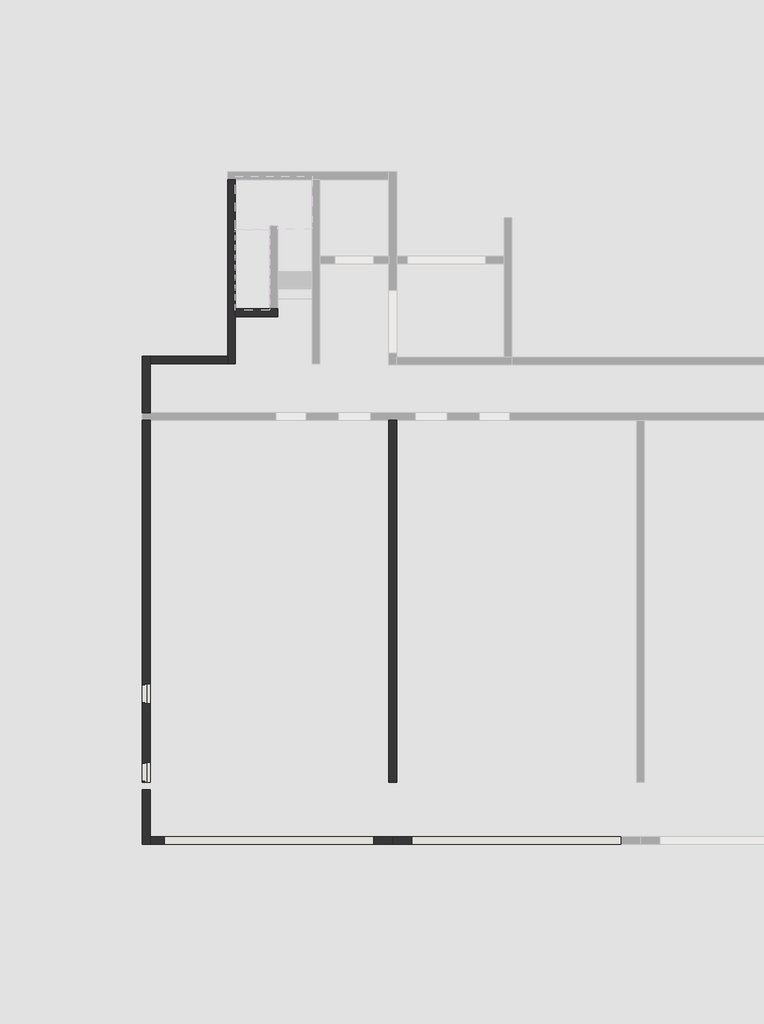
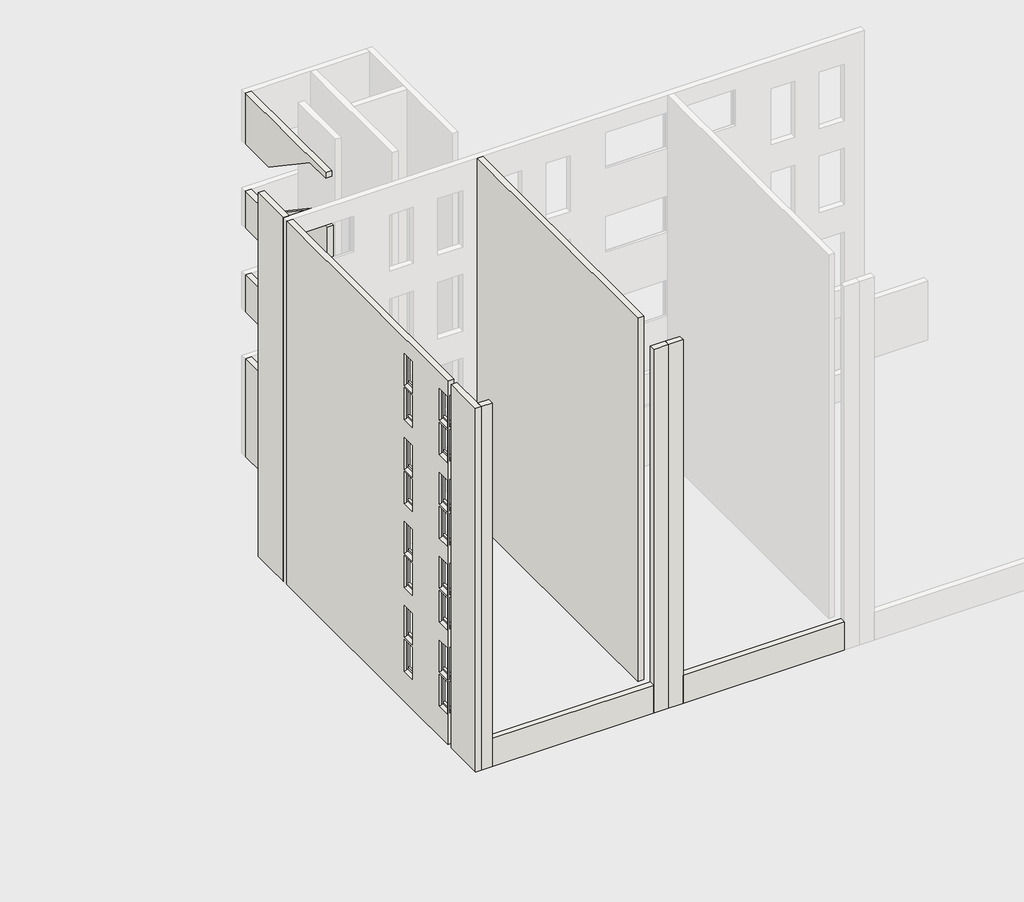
# One storey, part 1 of 4: 12 walls.
"""IFC4 building model written with IfcOpenShell, lengths in millimetres."""

import ifcopenshell
import ifcopenshell.guid

model = None  # the IFC model being written
_history = None  # IfcOwnerHistory: only IFC2X3 demands one
_inside = {}  # id of a spatial element -> (the spatial element, [elements in it])
_under = {}  # id of a project, library or spatial element -> (it, [spatial elements below it])
_declared = {}  # id of a project -> (the project, [libraries it declares])
_typed = {}  # id of a type object -> (the type object, [elements of that type])
_made_of = {}  # id of a material, layer set ... -> (it, [elements and type objects made of it])


def new_model(schema):
    """Start an empty IFC model of exactly this schema.

    Asked for "IFC4X3", IfcOpenShell would pick the latest addendum, in which some entities
    have other attributes; the version numbers below select the first issue.
    IFC2X3 requires an IfcOwnerHistory on every rooted entity: one is made here for all.
    """
    global model, _history
    if schema == "IFC4X3":
        model = ifcopenshell.file(schema_version=(4, 3, 0, 0))
    else:
        model = ifcopenshell.file(schema=schema)
    _inside.clear()
    _under.clear()
    _declared.clear()
    _typed.clear()
    _made_of.clear()
    _history = None
    if model.schema == "IFC2X3":
        org = make("IfcOrganization", Name="unknown")
        user = make(
            "IfcPersonAndOrganization",
            ThePerson=make("IfcPerson", FamilyName="unknown"),
            TheOrganization=org,
        )
        app = make(
            "IfcApplication",
            ApplicationDeveloper=org,
            Version="unknown",
            ApplicationFullName="unknown",
            ApplicationIdentifier="unknown",
        )
        _history = make(
            "IfcOwnerHistory",
            OwningUser=user,
            OwningApplication=app,
            ChangeAction="ADDED",
            CreationDate=0,
        )
    return model


def make(cls, **values):
    """One entity of the class cls with the attributes given. An attribute that is None is left unset."""
    return model.create_entity(
        cls, **{name: value for name, value in values.items() if value is not None}
    )


def rooted(cls, **values):
    """An entity with a GlobalId (a new one), such as an element, a storey or a relation."""
    return make(cls, GlobalId=ifcopenshell.guid.new(), OwnerHistory=_history, **values)


def si_unit(unit_type, name, prefix=None):
    """IfcSIUnit, for example si_unit("LENGTHUNIT", "METRE", prefix="MILLI")."""
    return make("IfcSIUnit", UnitType=unit_type, Prefix=prefix, Name=name)


def assignment(units):
    """IfcUnitAssignment: the units of a project."""
    return None if units is None else make("IfcUnitAssignment", Units=units)


def point(xyz):
    """IfcCartesianPoint."""
    return None if xyz is None else make("IfcCartesianPoint", Coordinates=xyz)


def direction(xyz):
    """IfcDirection."""
    return None if xyz is None else make("IfcDirection", DirectionRatios=xyz)


def frame(location, z_axis=None, x_axis=None):
    """IfcAxis2Placement3D, a coordinate frame: its origin and axes. An axis left out is left unset."""
    return make(
        "IfcAxis2Placement3D",
        Location=point(location),
        Axis=direction(z_axis),
        RefDirection=direction(x_axis),
    )


def origin():
    """The frame at (0, 0, 0) with its axes left unset."""
    return frame((0.0, 0.0, 0.0))


def place(relative_to, where):
    """IfcLocalPlacement: puts the frame where relative to a parent placement (None: the world)."""
    return make(
        "IfcLocalPlacement", PlacementRelTo=relative_to, RelativePlacement=where
    )


def context(
    kind, dimensions, precision=None, world=None, true_north=None, identifier=None
):
    """IfcGeometricRepresentationContext, for example the 3D "Model" context."""
    return make(
        "IfcGeometricRepresentationContext",
        ContextIdentifier=identifier,
        ContextType=kind,
        CoordinateSpaceDimension=dimensions,
        Precision=precision,
        WorldCoordinateSystem=world,
        TrueNorth=true_north,
    )


def project(units=None, contexts=None):
    """IfcProject with its units and contexts."""
    return rooted(
        "IfcProject",
        Name="project",
        RepresentationContexts=contexts,
        UnitsInContext=assignment(units),
    )


def spatial(cls, under=None, at=None, **own):
    """A site, building, storey or space (cls), placed at a placement, below another one or the project."""
    s = rooted(cls, ObjectPlacement=at, **own)
    if under is not None:
        _under.setdefault(under.id(), (under, []))[1].append(s)
    return s


def polyline(points):
    """IfcPolyline through the points."""
    return make("IfcPolyline", Points=[point(p) for p in points])


def outline(outer, holes=None, kind="AREA"):
    """IfcArbitraryClosedProfileDef: a profile drawn as a closed curve; with holes, ...WithVoids."""
    if holes is None:
        return make("IfcArbitraryClosedProfileDef", ProfileType=kind, OuterCurve=outer)
    return make(
        "IfcArbitraryProfileDefWithVoids",
        ProfileType=kind,
        OuterCurve=outer,
        InnerCurves=holes,
    )


def extrude(swept, where, along, depth):
    """IfcExtrudedAreaSolid: the profile swept, set in the frame where, extruded along a direction by depth."""
    return make(
        "IfcExtrudedAreaSolid",
        SweptArea=swept,
        Position=where,
        ExtrudedDirection=direction(along),
        Depth=depth,
    )


def faces_of(points, faces, orient=None, outer=None):
    """IfcFace entities. A face is a list of loops; a loop is a list of indices into points, from 0.

    orient and outer hold one flag for each loop. By default every Orientation is true, the
    first loop of a face is its IfcFaceOuterBound and the others are IfcFaceBound.
    """
    made = []
    for i, loops in enumerate(faces):
        bounds = []
        for j, loop in enumerate(loops):
            is_outer = j == 0 if outer is None else outer[i][j]
            bounds.append(
                make(
                    "IfcFaceOuterBound" if is_outer else "IfcFaceBound",
                    Bound=make("IfcPolyLoop", Polygon=[points[k] for k in loop]),
                    Orientation=True if orient is None else orient[i][j],
                )
            )
        made.append(make("IfcFace", Bounds=bounds))
    return made


def faceted_brep(points, faces, orient=None, outer=None, voids=None):
    """IfcFacetedBrep: a solid bounded by flat faces; with voids (closed shells), ...WithVoids."""
    shared = [point(p) for p in points]
    hull = make("IfcClosedShell", CfsFaces=faces_of(shared, faces, orient, outer))
    if voids is None:
        return make("IfcFacetedBrep", Outer=hull)
    return make(
        "IfcFacetedBrepWithVoids",
        Outer=hull,
        Voids=[
            make(cls, CfsFaces=faces_of(shared, fs, o, b)) for cls, fs, o, b in voids
        ],
    )


def shape(context_of_items, identifier, shape_type, items):
    """IfcShapeRepresentation: the items that make up one representation, for example the "Body"."""
    return make(
        "IfcShapeRepresentation",
        ContextOfItems=context_of_items,
        RepresentationIdentifier=identifier,
        RepresentationType=shape_type,
        Items=items,
    )


def made_of(thing, what):
    """Note that an element or type object is made of a material, layer set ...; save() writes the relation."""
    if what is not None:
        _made_of.setdefault(what.id(), (what, []))[1].append(thing)
    return thing


def element(
    cls,
    number,
    at=None,
    inside=None,
    cuts=None,
    type_object=None,
    material=None,
    context=None,
    identifier="Body",
    shape_type=None,
    held_by="IfcProductDefinitionShape",
    body=None,
    shapes=None,
    **own,
):
    """One element of the class cls, such as IfcWall. Its Tag is "e" and its number.

    at: its placement. inside: the storey or other place that contains it. cuts: it is an
    opening in that element (IfcRelVoidsElement). A single representation is given by context,
    identifier, shape_type and body (its items); several are given by shapes. held_by: the class
    of the entity that holds the representations. save() writes the other relations.
    """
    e = rooted(cls, Tag="e%d" % number, ObjectPlacement=at, **own)
    if body is not None:
        shapes = [shape(context, identifier, shape_type, body)]
    if shapes is not None:
        e.Representation = make(held_by, Representations=shapes)
    if inside is not None:
        _inside.setdefault(inside.id(), (inside, []))[1].append(e)
    if cuts is not None:
        rooted(
            "IfcRelVoidsElement", RelatingBuildingElement=cuts, RelatedOpeningElement=e
        )
    if type_object is not None:
        _typed.setdefault(type_object.id(), (type_object, []))[1].append(e)
    return made_of(e, material)


def aggregate(whole, parts):
    """IfcRelAggregates: a whole, such as a stair, and the parts it consists of."""
    return rooted("IfcRelAggregates", RelatingObject=whole, RelatedObjects=parts)


def save(model, path):
    """Write the relations noted so far, then the file.

    IfcRelAggregates (storeys below a building ...), IfcRelContainedInSpatialStructure (elements
    in a storey), IfcRelDefinesByType, IfcRelAssociatesMaterial and IfcRelDeclares: one each for
    every whole, place, type object, material and project.
    """
    for whole, parts in _under.values():
        aggregate(whole, parts)
    for where, things in _inside.values():
        rooted(
            "IfcRelContainedInSpatialStructure",
            RelatedElements=things,
            RelatingStructure=where,
        )
    for kind, things in _typed.values():
        rooted("IfcRelDefinesByType", RelatedObjects=things, RelatingType=kind)
    for what, things in _made_of.values():
        rooted("IfcRelAssociatesMaterial", RelatedObjects=things, RelatingMaterial=what)
    for by, libraries in _declared.values():
        rooted("IfcRelDeclares", RelatingContext=by, RelatedDefinitions=libraries)
    model.write(path)


model = new_model("IFC4")

# Units and contexts
model_context = context("Model", 3, world=origin())
ifc_project = project(units=[si_unit("LENGTHUNIT", "METRE", prefix="MILLI")], contexts=[model_context])

# Site, building, storey
site = spatial("IfcSite", under=ifc_project)
building = spatial("IfcBuilding", under=site)
storey = spatial("IfcBuildingStorey", under=building, Name="設計GL", Elevation=0.0)

# Walls
placement = place(None, origin())
element("IfcWall", 1, ObjectType="(R)RC200", at=placement, inside=storey, context=model_context, shape_type="Brep", body=[
    faceted_brep([(-11052.4687246, -16870.1171638, -1200.0), (-11052.4687246, -16670.1171638, -1200.0), (-11052.4687246, -15443.8671638, -1200.0), (-11052.4687246, -15443.8671638, 13000.0), (-11052.4687246, -16670.1171638, 13000.0), (-11052.4687246, -16870.1171638, 13000.0), (-11252.4687246, -16870.1171638, -1200.0), (-11252.4687246, -16870.1171638, 13000.0), (-11252.4687246, -15443.8671638, 13000.0), (-11252.4687246, -15443.8671638, -1200.0)], [[[0, 1, 2, 3, 4, 5]], [[6, 7, 8, 9]], [[2, 1, 0, 6, 9]], [[5, 4, 3, 8, 7]], [[0, 5, 7, 6]], [[3, 2, 9, 8]]]),
])
element("IfcWall", 2, ObjectType="内壁(R)RC200", at=placement, inside=storey, context=model_context, shape_type="Brep", body=[
    faceted_brep([(-4828.7187246, -5826.3671638, -1200.0), (-4828.7187246, -15243.8671638, -1200.0), (-4828.7187246, -15243.8671638, 13000.0), (-4828.7187246, -9920.1171638, 13000.0), (-4828.7187246, -9720.1171638, 13000.0), (-4828.7187246, -5826.3671638, 13000.0), (-4628.7187246, -5826.3671638, -1200.0), (-4628.7187246, -5826.3671638, 13000.0), (-4628.7187246, -9720.1171638, 13000.0), (-4628.7187246, -9920.1171638, 13000.0), (-4628.7187246, -15243.8671638, 13000.0), (-4628.7187246, -15243.8671638, -1200.0)], [[[0, 1, 2, 3, 4, 5]], [[6, 7, 8, 9, 10, 11]], [[1, 0, 6, 11]], [[5, 4, 3, 2, 10, 9, 8, 7]], [[0, 5, 7, 6]], [[2, 1, 11, 10]]]),
])
element("IfcWall", 3, ObjectType="(R)RC200", at=placement, inside=storey, context=model_context, shape_type="SweptSolid", body=[
    extrude(outline(polyline([(-9028.7187246, -4350.1171638), (-11052.4687246, -4350.1171638), (-11052.4687246, -4150.1171638), (-9028.7187246, -4150.1171638), (-9028.7187246, -4350.1171638)])), frame((0.0, 0.0, -1200.0), z_axis=(0.0, 0.0, 1.0), x_axis=(1.0, 0.0, 0.0)), (0.0, 0.0, 1.0), 3300.0),
])
element("IfcWall", 4, ObjectType="(R)RC200", at=placement, inside=storey, context=model_context, shape_type="SweptSolid", body=[
    extrude(outline(polyline([(-10678.7187246, -16870.1171638), (-11052.4687246, -16870.1171638), (-11052.4687246, -16670.1171638), (-10678.7187246, -16670.1171638), (-10678.7187246, -16870.1171638)])), frame((0.0, 0.0, -1200.0), z_axis=(0.0, 0.0, 1.0), x_axis=(1.0, 0.0, 0.0)), (0.0, 0.0, 1.0), 14200.0),
])
element("IfcWall", 5, ObjectType="(R)RC200", at=placement, inside=storey, context=model_context, shape_type="SweptSolid", body=[
    extrude(outline(polyline([(-5228.7187246, -16870.1171638), (-10678.7187246, -16870.1171638), (-10678.7187246, -16670.1171638), (-5228.7187246, -16670.1171638), (-5228.7187246, -16870.1171638)])), frame((0.0, 0.0, -1200.0), z_axis=(0.0, 0.0, 1.0), x_axis=(1.0, 0.0, 0.0)), (0.0, 0.0, 1.0), 2200.0),
])
element("IfcWall", 6, ObjectType="(R)RC200", at=placement, inside=storey, context=model_context, shape_type="SweptSolid", body=[
    extrude(outline(polyline([(-4728.7187246, -16870.1171638), (-5228.7187246, -16870.1171638), (-5228.7187246, -16670.1171638), (-4728.7187246, -16670.1171638), (-4728.7187246, -16870.1171638)])), frame((0.0, 0.0, -1200.0), z_axis=(0.0, 0.0, 1.0), x_axis=(1.0, 0.0, 0.0)), (0.0, 0.0, 1.0), 14200.0),
])
element("IfcWall", 7, ObjectType="(R)RC200", at=placement, inside=storey, context=model_context, shape_type="SweptSolid", body=[
    extrude(outline(polyline([(-4228.7187246, -16870.1171638), (-4728.7187246, -16870.1171638), (-4728.7187246, -16670.1171638), (-4228.7187246, -16670.1171638), (-4228.7187246, -16870.1171638)])), frame((0.0, 0.0, -1200.0), z_axis=(0.0, 0.0, 1.0), x_axis=(1.0, 0.0, 0.0)), (0.0, 0.0, 1.0), 14200.0),
])
element("IfcWall", 8, ObjectType="(R)RC200", at=placement, inside=storey, context=model_context, shape_type="SweptSolid", body=[
    extrude(outline(polyline([(1221.2812754, -16870.1171638), (-4228.7187246, -16870.1171638), (-4228.7187246, -16670.1171638), (1221.2812754, -16670.1171638), (1221.2812754, -16870.1171638)])), frame((0.0, 0.0, -1200.0), z_axis=(0.0, 0.0, 1.0), x_axis=(1.0, 0.0, 0.0)), (0.0, 0.0, 1.0), 2200.0),
])
element("IfcWall", 9, ObjectType="(R)RC200", at=placement, inside=storey, context=model_context, shape_type="Brep", body=[
    faceted_brep([(-9028.7187246, -4350.1171638, -1200.0), (-9028.7187246, -4350.1171638, 2100.0), (-9028.7187246, -4350.1171638, 3800.0), (-9028.7187246, -4350.1171638, 5100.0), (-9028.7187246, -4350.1171638, 5118.2352941), (-9028.7187246, -3315.3470092, 5118.2352941), (-9028.7187246, -916.2145243, 3500.0), (-9028.7187246, 449.8828362, 3500.0), (-9028.7187246, 449.8828362, -1200.0), (-9028.7187246, -4150.1171638, -1200.0), (-8828.7187246, -4350.1171638, 5118.2352941), (-8828.7187246, -4350.1171638, -1200.0), (-8828.7187246, -3120.1171638, -1200.0), (-8828.7187246, -2920.1171638, -1200.0), (-8828.7187246, 449.8828362, -1200.0), (-8828.7187246, 449.8828362, 3500.0), (-8828.7187246, -916.2145243, 3500.0), (-8828.7187246, -3315.3470092, 5118.2352941)], [[[0, 1, 2, 3, 4, 5, 6, 7, 8, 9]], [[10, 11, 12, 13, 14, 15, 16, 17]], [[0, 11, 10, 4, 3, 2, 1]], [[0, 9, 8, 14, 13, 12, 11]], [[5, 4, 10, 17]], [[6, 5, 17, 16]], [[7, 6, 16, 15]], [[8, 7, 15, 14]]]),
    faceted_brep([(-9028.7187246, 449.8828362, 11181.7647059), (-9028.7187246, -916.2145243, 11181.7647059), (-9028.7187246, -3315.3470092, 12800.0), (-9028.7187246, -4250.1171638, 12800.0), (-9028.7187246, -4250.1171638, 13000.0), (-9028.7187246, 449.8828362, 13000.0), (-8828.7187246, 449.8828362, 11181.7647059), (-8828.7187246, 449.8828362, 13000.0), (-8828.7187246, -4250.1171638, 13000.0), (-8828.7187246, -4250.1171638, 12800.0), (-8828.7187246, -3315.3470092, 12800.0), (-8828.7187246, -916.2145243, 11181.7647059)], [[[0, 1, 2, 3, 4, 5]], [[6, 7, 8, 9, 10, 11]], [[0, 5, 7, 6]], [[5, 4, 8, 7]], [[1, 0, 6, 11]], [[2, 1, 11, 10]], [[3, 2, 10, 9]], [[4, 3, 9, 8]]]),
    faceted_brep([(-9028.7187246, -916.2145243, 5181.7647059), (-9028.7187246, -3315.3470092, 6800.0), (-9028.7187246, -4150.1171638, 6800.0), (-9028.7187246, -4350.1171638, 6800.0), (-9028.7187246, -4350.1171638, 8100.0), (-9028.7187246, -4350.1171638, 8118.2352941), (-9028.7187246, -3315.3470092, 8118.2352941), (-9028.7187246, -916.2145243, 6500.0), (-9028.7187246, 449.8828362, 6500.0), (-9028.7187246, 449.8828362, 5181.7647059), (-8828.7187246, -916.2145243, 5181.7647059), (-8828.7187246, 449.8828362, 5181.7647059), (-8828.7187246, 449.8828362, 6500.0), (-8828.7187246, -916.2145243, 6500.0), (-8828.7187246, -3315.3470092, 8118.2352941), (-8828.7187246, -4350.1171638, 8118.2352941), (-8828.7187246, -4350.1171638, 6800.0), (-8828.7187246, -3315.3470092, 6800.0)], [[[0, 1, 2, 3, 4, 5, 6, 7, 8, 9]], [[10, 11, 12, 13, 14, 15, 16, 17]], [[1, 0, 10, 17]], [[3, 2, 1, 17, 16]], [[6, 5, 15, 14]], [[7, 6, 14, 13]], [[8, 7, 13, 12]], [[0, 9, 11, 10]], [[5, 4, 3, 16, 15]], [[9, 8, 12, 11]]]),
    faceted_brep([(-9028.7187246, -916.2145243, 8181.7647059), (-9028.7187246, -3315.3470092, 9800.0), (-9028.7187246, -4150.1171638, 9800.0), (-9028.7187246, -4350.1171638, 9800.0), (-9028.7187246, -4350.1171638, 11100.0), (-9028.7187246, -4350.1171638, 11118.2352941), (-9028.7187246, -3315.3470092, 11118.2352941), (-9028.7187246, -916.2145243, 9500.0), (-9028.7187246, 449.8828362, 9500.0), (-9028.7187246, 449.8828362, 8181.7647059), (-8828.7187246, -916.2145243, 8181.7647059), (-8828.7187246, 449.8828362, 8181.7647059), (-8828.7187246, 449.8828362, 9500.0), (-8828.7187246, -916.2145243, 9500.0), (-8828.7187246, -3315.3470092, 11118.2352941), (-8828.7187246, -4350.1171638, 11118.2352941), (-8828.7187246, -4350.1171638, 9800.0), (-8828.7187246, -3315.3470092, 9800.0)], [[[0, 1, 2, 3, 4, 5, 6, 7, 8, 9]], [[10, 11, 12, 13, 14, 15, 16, 17]], [[1, 0, 10, 17]], [[3, 2, 1, 17, 16]], [[6, 5, 15, 14]], [[7, 6, 14, 13]], [[8, 7, 13, 12]], [[0, 9, 11, 10]], [[5, 4, 3, 16, 15]], [[9, 8, 12, 11]]]),
])
element("IfcWall", 10, ObjectType="(R)RC200", at=placement, inside=storey, context=model_context, shape_type="Brep", body=[
    faceted_brep([(-8828.7187246, -3120.1171638, -1200.0), (-7728.7187246, -3120.1171638, -1200.0), (-7728.7187246, -3120.1171638, 4000.0), (-8828.7187246, -3120.1171638, 4000.0), (-8828.7187246, -2920.1171638, -1200.0), (-8828.7187246, -2920.1171638, 4000.0), (-7728.7187246, -2920.1171638, 4000.0), (-7728.7187246, -2920.1171638, -1200.0), (-7928.7187246, -2920.1171638, -1200.0)], [[[0, 1, 2, 3]], [[4, 5, 6, 7, 8]], [[1, 0, 4, 8, 7]], [[3, 2, 6, 5]], [[0, 3, 5, 4]], [[2, 1, 7, 6]]]),
])
element("IfcWall", 11, ObjectType="(R)RC200", at=placement, inside=storey, context=model_context, shape_type="Brep", body=[
    faceted_brep([(-11052.4687246, -5626.3671638, -1200.0), (-11052.4687246, -4350.1171638, -1200.0), (-11052.4687246, -4150.1171638, -1200.0), (-11052.4687246, -4150.1171638, 2100.0), (-11052.4687246, -4150.1171638, 3800.0), (-11052.4687246, -4150.1171638, 5100.0), (-11052.4687246, -4150.1171638, 6800.0), (-11052.4687246, -4150.1171638, 8100.0), (-11052.4687246, -4150.1171638, 9800.0), (-11052.4687246, -4150.1171638, 11100.0), (-11052.4687246, -4150.1171638, 13000.0), (-11052.4687246, -5626.3671638, 13000.0), (-11252.4687246, -5626.3671638, -1200.0), (-11252.4687246, -5626.3671638, 13000.0), (-11252.4687246, -4150.1171638, 13000.0), (-11252.4687246, -4150.1171638, -1200.0)], [[[0, 1, 2, 3, 4, 5, 6, 7, 8, 9, 10, 11]], [[12, 13, 14, 15]], [[2, 1, 0, 12, 15]], [[11, 10, 14, 13]], [[2, 15, 14, 10, 9, 8, 7, 6, 5, 4, 3]], [[0, 11, 13, 12]]]),
])
element("IfcWall", 12, ObjectType="外壁(R)RC200", at=placement, inside=storey, context=model_context, shape_type="Brep", body=[
    faceted_brep([(-11052.4687246, -15243.8671638, -1200.0), (-11052.4687246, -5826.3671638, -1200.0), (-11052.4687246, -5826.3671638, 13000.0), (-11052.4687246, -9720.1171638, 13000.0), (-11052.4687246, -9920.1171638, 13000.0), (-11052.4687246, -15243.8671638, 13000.0), (-11052.4687246, -15243.8671638, 12465.0), (-11052.4687246, -14730.1171638, 12465.0), (-11052.4687246, -14730.1171638, 11395.0), (-11052.4687246, -15243.8671638, 11395.0), (-11052.4687246, -15243.8671638, 11245.0), (-11052.4687246, -14730.1171638, 11245.0), (-11052.4687246, -14730.1171638, 10175.0), (-11052.4687246, -15243.8671638, 10175.0), (-11052.4687246, -15243.8671638, 9465.0), (-11052.4687246, -14730.1171638, 9465.0), (-11052.4687246, -14730.1171638, 8395.0), (-11052.4687246, -15243.8671638, 8395.0), (-11052.4687246, -15243.8671638, 8245.0), (-11052.4687246, -14730.1171638, 8245.0), (-11052.4687246, -14730.1171638, 7175.0), (-11052.4687246, -15243.8671638, 7175.0), (-11052.4687246, -15243.8671638, 6465.0), (-11052.4687246, -14730.1171638, 6465.0), (-11052.4687246, -14730.1171638, 5395.0), (-11052.4687246, -15243.8671638, 5395.0), (-11052.4687246, -15243.8671638, 5245.0), (-11052.4687246, -14730.1171638, 5245.0), (-11052.4687246, -14730.1171638, 4175.0), (-11052.4687246, -15243.8671638, 4175.0), (-11052.4687246, -15243.8671638, 3465.0), (-11052.4687246, -14730.1171638, 3465.0), (-11052.4687246, -14730.1171638, 2395.0), (-11052.4687246, -15243.8671638, 2395.0), (-11052.4687246, -15243.8671638, 2245.0), (-11052.4687246, -14730.1171638, 2245.0), (-11052.4687246, -14730.1171638, 1175.0), (-11052.4687246, -15243.8671638, 1175.0), (-11052.4687246, -12680.1171638, 2245.0), (-11052.4687246, -12680.1171638, 1175.0), (-11052.4687246, -13210.1171638, 1175.0), (-11052.4687246, -13210.1171638, 2245.0), (-11052.4687246, -12680.1171638, 3465.0), (-11052.4687246, -12680.1171638, 2395.0), (-11052.4687246, -13210.1171638, 2395.0), (-11052.4687246, -13210.1171638, 3465.0), (-11052.4687246, -12680.1171638, 5245.0), (-11052.4687246, -12680.1171638, 4175.0), (-11052.4687246, -13210.1171638, 4175.0), (-11052.4687246, -13210.1171638, 5245.0), (-11052.4687246, -12680.1171638, 6465.0), (-11052.4687246, -12680.1171638, 5395.0), (-11052.4687246, -13210.1171638, 5395.0), (-11052.4687246, -13210.1171638, 6465.0), (-11052.4687246, -12680.1171638, 8245.0), (-11052.4687246, -12680.1171638, 7175.0), (-11052.4687246, -13210.1171638, 7175.0), (-11052.4687246, -13210.1171638, 8245.0), (-11052.4687246, -12680.1171638, 9465.0), (-11052.4687246, -12680.1171638, 8395.0), (-11052.4687246, -13210.1171638, 8395.0), (-11052.4687246, -13210.1171638, 9465.0), (-11052.4687246, -12680.1171638, 11245.0), (-11052.4687246, -12680.1171638, 10175.0), (-11052.4687246, -13210.1171638, 10175.0), (-11052.4687246, -13210.1171638, 11245.0), (-11052.4687246, -12680.1171638, 12465.0), (-11052.4687246, -12680.1171638, 11395.0), (-11052.4687246, -13210.1171638, 11395.0), (-11052.4687246, -13210.1171638, 12465.0), (-11252.4687246, -5826.3671638, -1200.0), (-11252.4687246, -15243.8671638, -1200.0), (-11252.4687246, -15243.8671638, 13000.0), (-11252.4687246, -5826.3671638, 13000.0), (-11252.4687246, -13180.1171638, 1085.0), (-11252.4687246, -12710.1171638, 1085.0), (-11252.4687246, -12710.1171638, 2220.0), (-11252.4687246, -13180.1171638, 2220.0), (-11252.4687246, -13180.1171638, 2305.0), (-11252.4687246, -12710.1171638, 2305.0), (-11252.4687246, -12710.1171638, 3440.0), (-11252.4687246, -13180.1171638, 3440.0), (-11252.4687246, -13180.1171638, 4085.0), (-11252.4687246, -12710.1171638, 4085.0), (-11252.4687246, -12710.1171638, 5220.0), (-11252.4687246, -13180.1171638, 5220.0), (-11252.4687246, -13180.1171638, 5305.0), (-11252.4687246, -12710.1171638, 5305.0), (-11252.4687246, -12710.1171638, 6440.0), (-11252.4687246, -13180.1171638, 6440.0), (-11252.4687246, -13180.1171638, 7085.0), (-11252.4687246, -12710.1171638, 7085.0), (-11252.4687246, -12710.1171638, 8220.0), (-11252.4687246, -13180.1171638, 8220.0), (-11252.4687246, -13180.1171638, 8305.0), (-11252.4687246, -12710.1171638, 8305.0), (-11252.4687246, -12710.1171638, 9440.0), (-11252.4687246, -13180.1171638, 9440.0), (-11252.4687246, -13180.1171638, 10085.0), (-11252.4687246, -12710.1171638, 10085.0), (-11252.4687246, -12710.1171638, 11220.0), (-11252.4687246, -13180.1171638, 11220.0), (-11252.4687246, -13180.1171638, 11305.0), (-11252.4687246, -12710.1171638, 11305.0), (-11252.4687246, -12710.1171638, 12440.0), (-11252.4687246, -13180.1171638, 12440.0), (-11252.4687246, -15230.1171638, 11305.0), (-11252.4687246, -14760.1171638, 11305.0), (-11252.4687246, -14760.1171638, 12440.0), (-11252.4687246, -15230.1171638, 12440.0), (-11252.4687246, -15230.1171638, 10085.0), (-11252.4687246, -14760.1171638, 10085.0), (-11252.4687246, -14760.1171638, 11220.0), (-11252.4687246, -15230.1171638, 11220.0), (-11252.4687246, -15230.1171638, 8305.0), (-11252.4687246, -14760.1171638, 8305.0), (-11252.4687246, -14760.1171638, 9440.0), (-11252.4687246, -15230.1171638, 9440.0), (-11252.4687246, -15230.1171638, 7085.0), (-11252.4687246, -14760.1171638, 7085.0), (-11252.4687246, -14760.1171638, 8220.0), (-11252.4687246, -15230.1171638, 8220.0), (-11252.4687246, -15230.1171638, 5305.0), (-11252.4687246, -14760.1171638, 5305.0), (-11252.4687246, -14760.1171638, 6440.0), (-11252.4687246, -15230.1171638, 6440.0), (-11252.4687246, -15230.1171638, 4085.0), (-11252.4687246, -14760.1171638, 4085.0), (-11252.4687246, -14760.1171638, 5220.0), (-11252.4687246, -15230.1171638, 5220.0), (-11252.4687246, -15230.1171638, 2305.0), (-11252.4687246, -14760.1171638, 2305.0), (-11252.4687246, -14760.1171638, 3440.0), (-11252.4687246, -15230.1171638, 3440.0), (-11252.4687246, -15230.1171638, 1085.0), (-11252.4687246, -14760.1171638, 1085.0), (-11252.4687246, -14760.1171638, 2220.0), (-11252.4687246, -15230.1171638, 2220.0), (-11122.4687246, -12680.1171638, 2245.0), (-11122.4687246, -12680.1171638, 1175.0), (-11122.4687246, -13210.1171638, 1175.0), (-11122.4687246, -13210.1171638, 2245.0), (-11122.4687246, -12690.1171638, 1175.0), (-11122.4687246, -13200.1171638, 1175.0), (-11122.4687246, -13200.1171638, 2240.0), (-11122.4687246, -12690.1171638, 2240.0), (-11192.4687246, -12690.1171638, 2240.0), (-11192.4687246, -12690.1171638, 1094.2307692), (-11122.4687246, -12690.1171638, 1105.0), (-11122.4687246, -13200.1171638, 1105.0), (-11192.4687246, -13200.1171638, 1094.2307692), (-11192.4687246, -13200.1171638, 2240.0), (-11192.4687246, -12710.1171638, 1094.2307692), (-11192.4687246, -13180.1171638, 1094.2307692), (-11192.4687246, -13180.1171638, 2220.0), (-11192.4687246, -12710.1171638, 2220.0), (-11122.4687246, -12680.1171638, 3465.0), (-11122.4687246, -12680.1171638, 2395.0), (-11122.4687246, -13210.1171638, 2395.0), (-11122.4687246, -13210.1171638, 3465.0), (-11122.4687246, -12690.1171638, 2395.0), (-11122.4687246, -13200.1171638, 2395.0), (-11122.4687246, -13200.1171638, 3460.0), (-11122.4687246, -12690.1171638, 3460.0), (-11192.4687246, -12690.1171638, 3460.0), (-11192.4687246, -12690.1171638, 2314.2307692), (-11122.4687246, -12690.1171638, 2325.0), (-11122.4687246, -13200.1171638, 2325.0), (-11192.4687246, -13200.1171638, 2314.2307692), (-11192.4687246, -13200.1171638, 3460.0), (-11192.4687246, -12710.1171638, 2314.2307692), (-11192.4687246, -13180.1171638, 2314.2307692), (-11192.4687246, -13180.1171638, 3440.0), (-11192.4687246, -12710.1171638, 3440.0), (-11122.4687246, -12680.1171638, 5245.0), (-11122.4687246, -12680.1171638, 4175.0), (-11122.4687246, -13210.1171638, 4175.0), (-11122.4687246, -13210.1171638, 5245.0), (-11122.4687246, -12690.1171638, 4175.0), (-11122.4687246, -13200.1171638, 4175.0), (-11122.4687246, -13200.1171638, 5240.0), (-11122.4687246, -12690.1171638, 5240.0), (-11192.4687246, -12690.1171638, 5240.0), (-11192.4687246, -12690.1171638, 4094.2307692), (-11122.4687246, -12690.1171638, 4105.0), (-11122.4687246, -13200.1171638, 4105.0), (-11192.4687246, -13200.1171638, 4094.2307692), (-11192.4687246, -13200.1171638, 5240.0), (-11192.4687246, -12710.1171638, 4094.2307692), (-11192.4687246, -13180.1171638, 4094.2307692), (-11192.4687246, -13180.1171638, 5220.0), (-11192.4687246, -12710.1171638, 5220.0), (-11122.4687246, -12680.1171638, 6465.0), (-11122.4687246, -12680.1171638, 5395.0), (-11122.4687246, -13210.1171638, 5395.0), (-11122.4687246, -13210.1171638, 6465.0), (-11122.4687246, -12690.1171638, 5395.0), (-11122.4687246, -13200.1171638, 5395.0), (-11122.4687246, -13200.1171638, 6460.0), (-11122.4687246, -12690.1171638, 6460.0), (-11192.4687246, -12690.1171638, 6460.0), (-11192.4687246, -12690.1171638, 5314.2307692), (-11122.4687246, -12690.1171638, 5325.0), (-11122.4687246, -13200.1171638, 5325.0), (-11192.4687246, -13200.1171638, 5314.2307692), (-11192.4687246, -13200.1171638, 6460.0), (-11192.4687246, -12710.1171638, 5314.2307692), (-11192.4687246, -13180.1171638, 5314.2307692), (-11192.4687246, -13180.1171638, 6440.0), (-11192.4687246, -12710.1171638, 6440.0), (-11122.4687246, -12680.1171638, 8245.0), (-11122.4687246, -12680.1171638, 7175.0), (-11122.4687246, -13210.1171638, 7175.0), (-11122.4687246, -13210.1171638, 8245.0), (-11122.4687246, -12690.1171638, 7175.0), (-11122.4687246, -13200.1171638, 7175.0), (-11122.4687246, -13200.1171638, 8240.0), (-11122.4687246, -12690.1171638, 8240.0), (-11192.4687246, -12690.1171638, 8240.0), (-11192.4687246, -12690.1171638, 7094.2307692), (-11122.4687246, -12690.1171638, 7105.0), (-11122.4687246, -13200.1171638, 7105.0), (-11192.4687246, -13200.1171638, 7094.2307692), (-11192.4687246, -13200.1171638, 8240.0), (-11192.4687246, -12710.1171638, 7094.2307692), (-11192.4687246, -13180.1171638, 7094.2307692), (-11192.4687246, -13180.1171638, 8220.0), (-11192.4687246, -12710.1171638, 8220.0), (-11122.4687246, -12680.1171638, 9465.0), (-11122.4687246, -12680.1171638, 8395.0), (-11122.4687246, -13210.1171638, 8395.0), (-11122.4687246, -13210.1171638, 9465.0), (-11122.4687246, -12690.1171638, 8395.0), (-11122.4687246, -13200.1171638, 8395.0), (-11122.4687246, -13200.1171638, 9460.0), (-11122.4687246, -12690.1171638, 9460.0), (-11192.4687246, -12690.1171638, 9460.0), (-11192.4687246, -12690.1171638, 8314.2307692), (-11122.4687246, -12690.1171638, 8325.0), (-11122.4687246, -13200.1171638, 8325.0), (-11192.4687246, -13200.1171638, 8314.2307692), (-11192.4687246, -13200.1171638, 9460.0), (-11192.4687246, -12710.1171638, 8314.2307692), (-11192.4687246, -13180.1171638, 8314.2307692), (-11192.4687246, -13180.1171638, 9440.0), (-11192.4687246, -12710.1171638, 9440.0), (-11122.4687246, -12680.1171638, 11245.0), (-11122.4687246, -12680.1171638, 10175.0), (-11122.4687246, -13210.1171638, 10175.0), (-11122.4687246, -13210.1171638, 11245.0), (-11122.4687246, -12690.1171638, 10175.0), (-11122.4687246, -13200.1171638, 10175.0), (-11122.4687246, -13200.1171638, 11240.0), (-11122.4687246, -12690.1171638, 11240.0), (-11192.4687246, -12690.1171638, 11240.0), (-11192.4687246, -12690.1171638, 10094.2307692), (-11122.4687246, -12690.1171638, 10105.0), (-11122.4687246, -13200.1171638, 10105.0), (-11192.4687246, -13200.1171638, 10094.2307692), (-11192.4687246, -13200.1171638, 11240.0), (-11192.4687246, -12710.1171638, 10094.2307692), (-11192.4687246, -13180.1171638, 10094.2307692), (-11192.4687246, -13180.1171638, 11220.0), (-11192.4687246, -12710.1171638, 11220.0), (-11122.4687246, -12680.1171638, 12465.0), (-11122.4687246, -12680.1171638, 11395.0), (-11122.4687246, -13210.1171638, 11395.0), (-11122.4687246, -13210.1171638, 12465.0), (-11122.4687246, -12690.1171638, 11395.0), (-11122.4687246, -13200.1171638, 11395.0), (-11122.4687246, -13200.1171638, 12460.0), (-11122.4687246, -12690.1171638, 12460.0), (-11192.4687246, -12690.1171638, 12460.0), (-11192.4687246, -12690.1171638, 11314.2307692), (-11122.4687246, -12690.1171638, 11325.0), (-11122.4687246, -13200.1171638, 11325.0), (-11192.4687246, -13200.1171638, 11314.2307692), (-11192.4687246, -13200.1171638, 12460.0), (-11192.4687246, -12710.1171638, 11314.2307692), (-11192.4687246, -13180.1171638, 11314.2307692), (-11192.4687246, -13180.1171638, 12440.0), (-11192.4687246, -12710.1171638, 12440.0), (-11122.4687246, -15243.8671638, 1175.0), (-11122.4687246, -15243.8671638, 1105.0), (-11192.4687246, -15243.8671638, 1094.2307692), (-11192.4687246, -15243.8671638, 2240.0), (-11122.4687246, -15243.8671638, 2240.0), (-11122.4687246, -15243.8671638, 2245.0), (-11122.4687246, -15243.8671638, 2395.0), (-11122.4687246, -15243.8671638, 2325.0), (-11192.4687246, -15243.8671638, 2314.2307692), (-11192.4687246, -15243.8671638, 3460.0), (-11122.4687246, -15243.8671638, 3460.0), (-11122.4687246, -15243.8671638, 3465.0), (-11122.4687246, -15243.8671638, 4175.0), (-11122.4687246, -15243.8671638, 4105.0), (-11192.4687246, -15243.8671638, 4094.2307692), (-11192.4687246, -15243.8671638, 5240.0), (-11122.4687246, -15243.8671638, 5240.0), (-11122.4687246, -15243.8671638, 5245.0), (-11122.4687246, -15243.8671638, 5395.0), (-11122.4687246, -15243.8671638, 5325.0), (-11192.4687246, -15243.8671638, 5314.2307692), (-11192.4687246, -15243.8671638, 6460.0), (-11122.4687246, -15243.8671638, 6460.0), (-11122.4687246, -15243.8671638, 6465.0), (-11122.4687246, -15243.8671638, 7175.0), (-11122.4687246, -15243.8671638, 7105.0), (-11192.4687246, -15243.8671638, 7094.2307692), (-11192.4687246, -15243.8671638, 8240.0), (-11122.4687246, -15243.8671638, 8240.0), (-11122.4687246, -15243.8671638, 8245.0), (-11122.4687246, -15243.8671638, 8395.0), (-11122.4687246, -15243.8671638, 8325.0), (-11192.4687246, -15243.8671638, 8314.2307692), (-11192.4687246, -15243.8671638, 9460.0), (-11122.4687246, -15243.8671638, 9460.0), (-11122.4687246, -15243.8671638, 9465.0), (-11122.4687246, -15243.8671638, 10175.0), (-11122.4687246, -15243.8671638, 10105.0), (-11192.4687246, -15243.8671638, 10094.2307692), (-11192.4687246, -15243.8671638, 11240.0), (-11122.4687246, -15243.8671638, 11240.0), (-11122.4687246, -15243.8671638, 11245.0), (-11122.4687246, -15243.8671638, 11395.0), (-11122.4687246, -15243.8671638, 11325.0), (-11192.4687246, -15243.8671638, 11314.2307692), (-11192.4687246, -15243.8671638, 12460.0), (-11122.4687246, -15243.8671638, 12460.0), (-11122.4687246, -15243.8671638, 12465.0), (-11122.4687246, -14730.1171638, 12465.0), (-11122.4687246, -14730.1171638, 11395.0), (-11122.4687246, -14740.1171638, 11395.0), (-11122.4687246, -14740.1171638, 12460.0), (-11192.4687246, -14740.1171638, 12460.0), (-11192.4687246, -14740.1171638, 11314.2307692), (-11122.4687246, -14740.1171638, 11325.0), (-11192.4687246, -14760.1171638, 11314.2307692), (-11192.4687246, -15230.1171638, 11314.2307692), (-11192.4687246, -15230.1171638, 12440.0), (-11192.4687246, -14760.1171638, 12440.0), (-11122.4687246, -14730.1171638, 11245.0), (-11122.4687246, -14730.1171638, 10175.0), (-11122.4687246, -14740.1171638, 10175.0), (-11122.4687246, -14740.1171638, 11240.0), (-11192.4687246, -14740.1171638, 11240.0), (-11192.4687246, -14740.1171638, 10094.2307692), (-11122.4687246, -14740.1171638, 10105.0), (-11192.4687246, -14760.1171638, 10094.2307692), (-11192.4687246, -15230.1171638, 10094.2307692), (-11192.4687246, -15230.1171638, 11220.0), (-11192.4687246, -14760.1171638, 11220.0), (-11122.4687246, -14730.1171638, 9465.0), (-11122.4687246, -14730.1171638, 8395.0), (-11122.4687246, -14740.1171638, 8395.0), (-11122.4687246, -14740.1171638, 9460.0), (-11192.4687246, -14740.1171638, 9460.0), (-11192.4687246, -14740.1171638, 8314.2307692), (-11122.4687246, -14740.1171638, 8325.0), (-11192.4687246, -14760.1171638, 8314.2307692), (-11192.4687246, -15230.1171638, 8314.2307692), (-11192.4687246, -15230.1171638, 9440.0), (-11192.4687246, -14760.1171638, 9440.0), (-11122.4687246, -14730.1171638, 8245.0), (-11122.4687246, -14730.1171638, 7175.0), (-11122.4687246, -14740.1171638, 7175.0), (-11122.4687246, -14740.1171638, 8240.0), (-11192.4687246, -14740.1171638, 8240.0), (-11192.4687246, -14740.1171638, 7094.2307692), (-11122.4687246, -14740.1171638, 7105.0), (-11192.4687246, -14760.1171638, 7094.2307692), (-11192.4687246, -15230.1171638, 7094.2307692), (-11192.4687246, -15230.1171638, 8220.0), (-11192.4687246, -14760.1171638, 8220.0), (-11122.4687246, -14730.1171638, 6465.0), (-11122.4687246, -14730.1171638, 5395.0), (-11122.4687246, -14740.1171638, 5395.0), (-11122.4687246, -14740.1171638, 6460.0), (-11192.4687246, -14740.1171638, 6460.0), (-11192.4687246, -14740.1171638, 5314.2307692), (-11122.4687246, -14740.1171638, 5325.0), (-11192.4687246, -14760.1171638, 5314.2307692), (-11192.4687246, -15230.1171638, 5314.2307692), (-11192.4687246, -15230.1171638, 6440.0), (-11192.4687246, -14760.1171638, 6440.0), (-11122.4687246, -14730.1171638, 5245.0), (-11122.4687246, -14730.1171638, 4175.0), (-11122.4687246, -14740.1171638, 4175.0), (-11122.4687246, -14740.1171638, 5240.0), (-11192.4687246, -14740.1171638, 5240.0), (-11192.4687246, -14740.1171638, 4094.2307692), (-11122.4687246, -14740.1171638, 4105.0), (-11192.4687246, -14760.1171638, 4094.2307692), (-11192.4687246, -15230.1171638, 4094.2307692), (-11192.4687246, -15230.1171638, 5220.0), (-11192.4687246, -14760.1171638, 5220.0), (-11122.4687246, -14730.1171638, 3465.0), (-11122.4687246, -14730.1171638, 2395.0), (-11122.4687246, -14740.1171638, 2395.0), (-11122.4687246, -14740.1171638, 3460.0), (-11192.4687246, -14740.1171638, 3460.0), (-11192.4687246, -14740.1171638, 2314.2307692), (-11122.4687246, -14740.1171638, 2325.0), (-11192.4687246, -14760.1171638, 2314.2307692), (-11192.4687246, -15230.1171638, 2314.2307692), (-11192.4687246, -15230.1171638, 3440.0), (-11192.4687246, -14760.1171638, 3440.0), (-11122.4687246, -14730.1171638, 2245.0), (-11122.4687246, -14730.1171638, 1175.0), (-11122.4687246, -14740.1171638, 1175.0), (-11122.4687246, -14740.1171638, 2240.0), (-11192.4687246, -14740.1171638, 2240.0), (-11192.4687246, -14740.1171638, 1094.2307692), (-11122.4687246, -14740.1171638, 1105.0), (-11192.4687246, -14760.1171638, 1094.2307692), (-11192.4687246, -15230.1171638, 1094.2307692), (-11192.4687246, -15230.1171638, 2220.0), (-11192.4687246, -14760.1171638, 2220.0)], [[[0, 1, 2, 3, 4, 5, 6, 7, 8, 9, 10, 11, 12, 13, 14, 15, 16, 17, 18, 19, 20, 21, 22, 23, 24, 25, 26, 27, 28, 29, 30, 31, 32, 33, 34, 35, 36, 37], [38, 39, 40, 41], [42, 43, 44, 45], [46, 47, 48, 49], [50, 51, 52, 53], [54, 55, 56, 57], [58, 59, 60, 61], [62, 63, 64, 65], [66, 67, 68, 69]], [[70, 71, 72, 73], [74, 75, 76, 77], [78, 79, 80, 81], [82, 83, 84, 85], [86, 87, 88, 89], [90, 91, 92, 93], [94, 95, 96, 97], [98, 99, 100, 101], [102, 103, 104, 105], [106, 107, 108, 109], [110, 111, 112, 113], [114, 115, 116, 117], [118, 119, 120, 121], [122, 123, 124, 125], [126, 127, 128, 129], [130, 131, 132, 133], [134, 135, 136, 137]], [[1, 0, 71, 70]], [[5, 4, 3, 2, 73, 72]], [[138, 139, 39, 38]], [[140, 141, 41, 40]], [[39, 139, 142, 143, 140, 40]], [[139, 138, 141, 140, 143, 144, 145, 142]], [[141, 138, 38, 41]], [[145, 146, 147, 148, 142]], [[149, 150, 151, 144, 143]], [[148, 147, 152, 75, 74, 153, 150, 149]], [[147, 146, 151, 150, 153, 154, 155, 152]], [[146, 145, 144, 151]], [[148, 149, 143, 142]], [[155, 76, 75, 152]], [[153, 74, 77, 154]], [[76, 155, 154, 77]], [[156, 157, 43, 42]], [[158, 159, 45, 44]], [[43, 157, 160, 161, 158, 44]], [[157, 156, 159, 158, 161, 162, 163, 160]], [[159, 156, 42, 45]], [[163, 164, 165, 166, 160]], [[167, 168, 169, 162, 161]], [[166, 165, 170, 79, 78, 171, 168, 167]], [[165, 164, 169, 168, 171, 172, 173, 170]], [[164, 163, 162, 169]], [[166, 167, 161, 160]], [[173, 80, 79, 170]], [[171, 78, 81, 172]], [[80, 173, 172, 81]], [[174, 175, 47, 46]], [[176, 177, 49, 48]], [[47, 175, 178, 179, 176, 48]], [[175, 174, 177, 176, 179, 180, 181, 178]], [[177, 174, 46, 49]], [[181, 182, 183, 184, 178]], [[185, 186, 187, 180, 179]], [[184, 183, 188, 83, 82, 189, 186, 185]], [[183, 182, 187, 186, 189, 190, 191, 188]], [[182, 181, 180, 187]], [[184, 185, 179, 178]], [[191, 84, 83, 188]], [[189, 82, 85, 190]], [[84, 191, 190, 85]], [[192, 193, 51, 50]], [[194, 195, 53, 52]], [[51, 193, 196, 197, 194, 52]], [[193, 192, 195, 194, 197, 198, 199, 196]], [[195, 192, 50, 53]], [[199, 200, 201, 202, 196]], [[203, 204, 205, 198, 197]], [[202, 201, 206, 87, 86, 207, 204, 203]], [[201, 200, 205, 204, 207, 208, 209, 206]], [[200, 199, 198, 205]], [[202, 203, 197, 196]], [[209, 88, 87, 206]], [[207, 86, 89, 208]], [[88, 209, 208, 89]], [[210, 211, 55, 54]], [[212, 213, 57, 56]], [[55, 211, 214, 215, 212, 56]], [[211, 210, 213, 212, 215, 216, 217, 214]], [[213, 210, 54, 57]], [[217, 218, 219, 220, 214]], [[221, 222, 223, 216, 215]], [[220, 219, 224, 91, 90, 225, 222, 221]], [[219, 218, 223, 222, 225, 226, 227, 224]], [[218, 217, 216, 223]], [[220, 221, 215, 214]], [[227, 92, 91, 224]], [[225, 90, 93, 226]], [[92, 227, 226, 93]], [[228, 229, 59, 58]], [[230, 231, 61, 60]], [[59, 229, 232, 233, 230, 60]], [[229, 228, 231, 230, 233, 234, 235, 232]], [[231, 228, 58, 61]], [[235, 236, 237, 238, 232]], [[239, 240, 241, 234, 233]], [[238, 237, 242, 95, 94, 243, 240, 239]], [[237, 236, 241, 240, 243, 244, 245, 242]], [[236, 235, 234, 241]], [[238, 239, 233, 232]], [[245, 96, 95, 242]], [[243, 94, 97, 244]], [[96, 245, 244, 97]], [[246, 247, 63, 62]], [[248, 249, 65, 64]], [[63, 247, 250, 251, 248, 64]], [[247, 246, 249, 248, 251, 252, 253, 250]], [[249, 246, 62, 65]], [[253, 254, 255, 256, 250]], [[257, 258, 259, 252, 251]], [[256, 255, 260, 99, 98, 261, 258, 257]], [[255, 254, 259, 258, 261, 262, 263, 260]], [[254, 253, 252, 259]], [[256, 257, 251, 250]], [[263, 100, 99, 260]], [[261, 98, 101, 262]], [[100, 263, 262, 101]], [[264, 265, 67, 66]], [[266, 267, 69, 68]], [[67, 265, 268, 269, 266, 68]], [[265, 264, 267, 266, 269, 270, 271, 268]], [[267, 264, 66, 69]], [[271, 272, 273, 274, 268]], [[275, 276, 277, 270, 269]], [[274, 273, 278, 103, 102, 279, 276, 275]], [[273, 272, 277, 276, 279, 280, 281, 278]], [[272, 271, 270, 277]], [[274, 275, 269, 268]], [[281, 104, 103, 278]], [[279, 102, 105, 280]], [[104, 281, 280, 105]], [[2, 1, 70, 73]], [[5, 72, 71, 0, 37, 282, 283, 284, 285, 286, 287, 34, 33, 288, 289, 290, 291, 292, 293, 30, 29, 294, 295, 296, 297, 298, 299, 26, 25, 300, 301, 302, 303, 304, 305, 22, 21, 306, 307, 308, 309, 310, 311, 18, 17, 312, 313, 314, 315, 316, 317, 14, 13, 318, 319, 320, 321, 322, 323, 10, 9, 324, 325, 326, 327, 328, 329, 6]], [[330, 331, 8, 7]], [[331, 332, 324, 9, 8]], [[331, 330, 329, 328, 333, 332]], [[330, 7, 6, 329]], [[332, 333, 334, 335, 336]], [[336, 335, 337, 107, 106, 338, 326, 325]], [[335, 334, 327, 326, 338, 339, 340, 337]], [[334, 333, 328, 327]], [[332, 336, 325, 324]], [[107, 337, 340, 108]], [[338, 106, 109, 339]], [[340, 339, 109, 108]], [[341, 342, 12, 11]], [[342, 343, 318, 13, 12]], [[342, 341, 323, 322, 344, 343]], [[341, 11, 10, 323]], [[343, 344, 345, 346, 347]], [[347, 346, 348, 111, 110, 349, 320, 319]], [[346, 345, 321, 320, 349, 350, 351, 348]], [[345, 344, 322, 321]], [[343, 347, 319, 318]], [[111, 348, 351, 112]], [[349, 110, 113, 350]], [[351, 350, 113, 112]], [[352, 353, 16, 15]], [[353, 354, 312, 17, 16]], [[353, 352, 317, 316, 355, 354]], [[352, 15, 14, 317]], [[354, 355, 356, 357, 358]], [[358, 357, 359, 115, 114, 360, 314, 313]], [[357, 356, 315, 314, 360, 361, 362, 359]], [[356, 355, 316, 315]], [[354, 358, 313, 312]], [[115, 359, 362, 116]], [[360, 114, 117, 361]], [[362, 361, 117, 116]], [[363, 364, 20, 19]], [[364, 365, 306, 21, 20]], [[364, 363, 311, 310, 366, 365]], [[363, 19, 18, 311]], [[365, 366, 367, 368, 369]], [[369, 368, 370, 119, 118, 371, 308, 307]], [[368, 367, 309, 308, 371, 372, 373, 370]], [[367, 366, 310, 309]], [[365, 369, 307, 306]], [[119, 370, 373, 120]], [[371, 118, 121, 372]], [[373, 372, 121, 120]], [[374, 375, 24, 23]], [[375, 376, 300, 25, 24]], [[375, 374, 305, 304, 377, 376]], [[374, 23, 22, 305]], [[376, 377, 378, 379, 380]], [[380, 379, 381, 123, 122, 382, 302, 301]], [[379, 378, 303, 302, 382, 383, 384, 381]], [[378, 377, 304, 303]], [[376, 380, 301, 300]], [[123, 381, 384, 124]], [[382, 122, 125, 383]], [[384, 383, 125, 124]], [[385, 386, 28, 27]], [[386, 387, 294, 29, 28]], [[386, 385, 299, 298, 388, 387]], [[385, 27, 26, 299]], [[387, 388, 389, 390, 391]], [[391, 390, 392, 127, 126, 393, 296, 295]], [[390, 389, 297, 296, 393, 394, 395, 392]], [[389, 388, 298, 297]], [[387, 391, 295, 294]], [[127, 392, 395, 128]], [[393, 126, 129, 394]], [[395, 394, 129, 128]], [[396, 397, 32, 31]], [[397, 398, 288, 33, 32]], [[397, 396, 293, 292, 399, 398]], [[396, 31, 30, 293]], [[398, 399, 400, 401, 402]], [[402, 401, 403, 131, 130, 404, 290, 289]], [[401, 400, 291, 290, 404, 405, 406, 403]], [[400, 399, 292, 291]], [[398, 402, 289, 288]], [[131, 403, 406, 132]], [[404, 130, 133, 405]], [[406, 405, 133, 132]], [[407, 408, 36, 35]], [[408, 409, 282, 37, 36]], [[408, 407, 287, 286, 410, 409]], [[407, 35, 34, 287]], [[409, 410, 411, 412, 413]], [[413, 412, 414, 135, 134, 415, 284, 283]], [[412, 411, 285, 284, 415, 416, 417, 414]], [[411, 410, 286, 285]], [[409, 413, 283, 282]], [[135, 414, 417, 136]], [[415, 134, 137, 416]], [[417, 416, 137, 136]]]),
])

save(model, "model.ifc")
